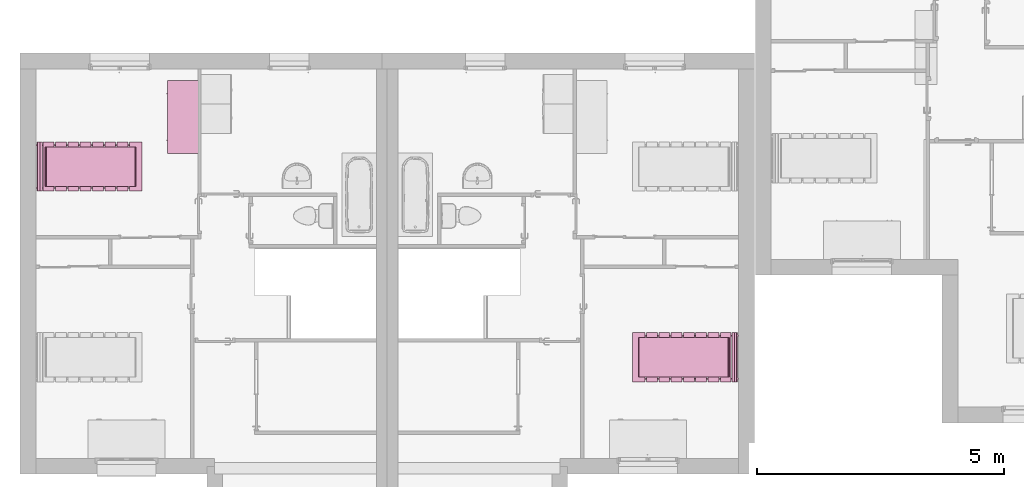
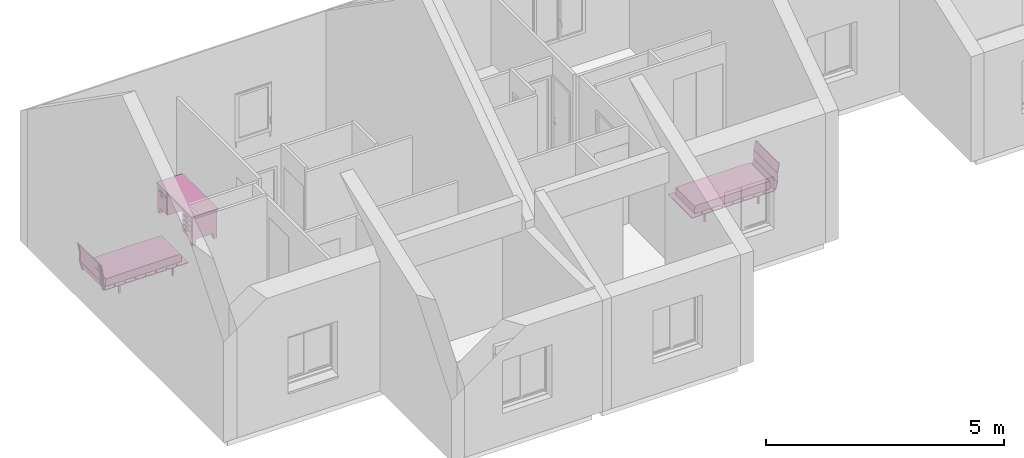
# One storey, part 53 of 61: 3 furnishings.
"""IFC2X3 building model written with IfcOpenShell, lengths in metres."""

from ifc_helpers import new_model, entity, si_unit, converted_unit, derived_unit, direction, frame, frame_2d, origin, origin_2d_with_axis, place, context, subcontext, project, spatial, polyline, circle_curve, parameter, trimmed, segment, composite_curve, rectangle, outline, extrude, faceted_brep, source, transform, mapped, material, material_list, type_object, type_shapes, element, save


model = new_model("IFC2X3")

# Units and contexts
model_context = context("Model", 3, precision=1e-05, world=origin(), true_north=direction((6.12303176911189e-17, 1.0)))
body_context = subcontext(model_context, "Body", "Model", "MODEL_VIEW")
ifc_project = project(units=[si_unit("LENGTHUNIT", "METRE"), si_unit("AREAUNIT", "SQUARE_METRE"), si_unit("VOLUMEUNIT", "CUBIC_METRE"), converted_unit("PLANEANGLEUNIT", "DEGREE", entity("IfcRatioMeasure", 0.0174532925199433), si_unit("PLANEANGLEUNIT", "RADIAN"), dimensions=[0, 0, 0, 0, 0, 0, 0]), si_unit("MASSUNIT", "GRAM", prefix="KILO"), derived_unit("MASSDENSITYUNIT", [(si_unit("MASSUNIT", "GRAM", prefix="KILO"), 1), (si_unit("LENGTHUNIT", "METRE"), -3)]), si_unit("TIMEUNIT", "SECOND"), si_unit("FREQUENCYUNIT", "HERTZ"), si_unit("THERMODYNAMICTEMPERATUREUNIT", "DEGREE_CELSIUS"), derived_unit("THERMALTRANSMITTANCEUNIT", [(si_unit("MASSUNIT", "GRAM", prefix="KILO"), 1), (si_unit("THERMODYNAMICTEMPERATUREUNIT", "KELVIN"), -1), (si_unit("TIMEUNIT", "SECOND"), -3)]), derived_unit("VOLUMETRICFLOWRATEUNIT", [(si_unit("LENGTHUNIT", "METRE"), 3), (si_unit("TIMEUNIT", "SECOND"), -1)]), si_unit("ELECTRICCURRENTUNIT", "AMPERE"), si_unit("ELECTRICVOLTAGEUNIT", "VOLT"), si_unit("POWERUNIT", "WATT"), si_unit("FORCEUNIT", "NEWTON", prefix="KILO"), si_unit("ILLUMINANCEUNIT", "LUX"), si_unit("LUMINOUSFLUXUNIT", "LUMEN"), si_unit("LUMINOUSINTENSITYUNIT", "CANDELA"), derived_unit("USERDEFINED", [(si_unit("MASSUNIT", "GRAM", prefix="KILO"), -1), (si_unit("LENGTHUNIT", "METRE"), -2), (si_unit("TIMEUNIT", "SECOND"), 3), (si_unit("LUMINOUSFLUXUNIT", "LUMEN"), 1)]), derived_unit("LINEARVELOCITYUNIT", [(si_unit("LENGTHUNIT", "METRE"), 1), (si_unit("TIMEUNIT", "SECOND"), -1)]), si_unit("PRESSUREUNIT", "PASCAL"), derived_unit("USERDEFINED", [(si_unit("LENGTHUNIT", "METRE"), -2), (si_unit("MASSUNIT", "GRAM", prefix="KILO"), 1), (si_unit("TIMEUNIT", "SECOND"), -2)])], contexts=[model_context])

# Site, building, storey
site_placement = place(None, origin())
site = spatial("IfcSite", under=ifc_project, at=site_placement, Name="Surface", CompositionType="ELEMENT")
building_placement = place(site_placement, origin())
building = spatial("IfcBuilding", under=site, at=building_placement, CompositionType="ELEMENT")
storey_placement = place(building_placement, frame((0.0, 0.0, 2.82)))
storey = spatial("IfcBuildingStorey", under=building, at=storey_placement, Name="ETAGE", CompositionType="ELEMENT", Elevation=2.82)

# Furnishings
ifc_material_1 = material(Name="Bois - Mélaminé ivoire")
ifc_material_2 = material(Name="Métal - Chrome")
ifc_material_3 = material(Name="Bois - Cerisier")
ifc_material_list_1 = material_list([ifc_material_1, ifc_material_2, ifc_material_3])
ifc_material_list_2 = material_list([ifc_material_1, ifc_material_2, ifc_material_3])
furniture_type_1 = type_object("IfcFurnitureType", Name="1525 mm x 600 mm", material=ifc_material_list_2)
shared_shape_1 = source(origin(), body_context, "Body", "Brep", [
    faceted_brep([(1.06265, 0.599999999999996, 0.704850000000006), (1.06265, 0.599999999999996, 0.603250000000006), (1.43095, 0.599999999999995, 0.603250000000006), (1.43095, 0.599999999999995, 0.704850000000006), (1.06265, 0.612699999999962, 0.704850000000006), (1.06265, 0.612699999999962, 0.603250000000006), (1.43095, 0.612699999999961, 0.603250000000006), (1.43095, 0.612699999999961, 0.704850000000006)], [[[0, 1, 2, 3]], [[1, 0, 4, 5]], [[2, 1, 5, 6]], [[3, 2, 6, 7]], [[0, 3, 7, 4]], [[4, 7, 6, 5]]]),
    faceted_brep([(1.43095, 0.612699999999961, 0.584200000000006), (1.43095, 0.612699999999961, 0.17105), (1.06265, 0.612699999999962, 0.17105), (1.06265, 0.612699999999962, 0.584200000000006), (1.06265, 0.599999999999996, 0.584200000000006), (1.43095, 0.599999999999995, 0.584200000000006), (1.06265, 0.599999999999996, 0.17105), (1.43095, 0.599999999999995, 0.17105)], [[[0, 1, 2, 3]], [[4, 5, 0, 3]], [[6, 4, 3, 2]], [[7, 6, 2, 1]], [[5, 7, 1, 0]], [[5, 4, 6, 7]]]),
    faceted_brep([(0.38735, 0.6, 0.70485), (0.01905, 0.6, 0.70485), (0.01905, 0.6, 0.60285), (0.38735, 0.6, 0.60285), (0.38735, 0.612700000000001, 0.70485), (0.01905, 0.612700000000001, 0.70485), (0.01905, 0.612700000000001, 0.60285), (0.38735, 0.612700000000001, 0.60285)], [[[0, 1, 2, 3]], [[1, 0, 4, 5]], [[2, 1, 5, 6]], [[3, 2, 6, 7]], [[0, 3, 7, 4]], [[4, 7, 6, 5]]]),
    faceted_brep([(0.01905, 0.612700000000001, 0.5838), (0.38735, 0.612700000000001, 0.5838), (0.38735, 0.612700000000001, 0.4822), (0.01905, 0.612700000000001, 0.4822), (0.01905, 0.6, 0.4822), (0.01905, 0.6, 0.5838), (0.38735, 0.6, 0.4822), (0.38735, 0.6, 0.5838)], [[[0, 1, 2, 3]], [[4, 5, 0, 3]], [[6, 4, 3, 2]], [[7, 6, 2, 1]], [[5, 7, 1, 0]], [[5, 4, 6, 7]]]),
    faceted_brep([(0.01905, 0.6, 0.17105), (0.01905, 0.6, 0.3425), (0.01905, 0.612700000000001, 0.3425), (0.01905, 0.612700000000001, 0.17105), (0.38735, 0.6, 0.17105), (0.38735, 0.612700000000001, 0.17105), (0.38735, 0.6, 0.3425), (0.38735, 0.612700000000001, 0.3425)], [[[0, 1, 2, 3]], [[4, 0, 3, 5]], [[6, 4, 5, 7]], [[1, 6, 7, 2]], [[2, 7, 5, 3]], [[1, 0, 4, 6]]]),
    faceted_brep([(0.01905, 0.6, 0.36155), (0.01905, 0.6, 0.46315), (0.01905, 0.612700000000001, 0.46315), (0.01905, 0.612700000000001, 0.36155), (0.38735, 0.6, 0.36155), (0.38735, 0.612700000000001, 0.36155), (0.38735, 0.6, 0.46315), (0.38735, 0.612700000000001, 0.46315)], [[[0, 1, 2, 3]], [[4, 0, 3, 5]], [[6, 4, 5, 7]], [[1, 6, 7, 2]], [[2, 7, 5, 3]], [[1, 0, 4, 6]]]),
    faceted_brep([(1.34839999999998, 0.6, 0.152), (1.34839999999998, 0.498399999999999, 0.152), (1.44999999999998, 0.498399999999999, 0.152), (1.44999999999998, 0.6, 0.152), (1.37379999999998, 0.6, 0.0), (1.44999999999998, 0.6, 0.0), (1.44999999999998, 0.5238, 0.0), (1.37379999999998, 0.5238, 0.0)], [[[0, 1, 2, 3]], [[4, 5, 6, 7]], [[4, 7, 1, 0]], [[7, 6, 2, 1]], [[6, 5, 3, 2]], [[5, 4, 0, 3]]]),
    faceted_brep([(1.3484, 0.0, 0.152), (1.45, 0.0, 0.152), (1.45, 0.1016, 0.152), (1.3484, 0.1016, 0.152), (1.3738, 0.0, 0.0), (1.3738, 0.0761999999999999, 0.0), (1.45, 0.0761999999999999, 0.0), (1.45, 0.0, 0.0)], [[[0, 1, 2, 3]], [[4, 5, 6, 7]], [[4, 7, 1, 0]], [[7, 6, 2, 1]], [[6, 5, 3, 2]], [[5, 4, 0, 3]]]),
    faceted_brep([(0.1016, 0.0, 0.152), (0.1016, 0.1016, 0.152), (0.0, 0.1016, 0.152), (0.0, 0.0, 0.152), (0.0762, 0.0, 0.0), (0.0, 0.0, 0.0), (0.0, 0.0761999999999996, 0.0), (0.0762, 0.0761999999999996, 0.0)], [[[0, 1, 2, 3]], [[4, 5, 6, 7]], [[4, 7, 1, 0]], [[7, 6, 2, 1]], [[6, 5, 3, 2]], [[5, 4, 0, 3]]]),
    faceted_brep([(0.1016, 0.600000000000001, 0.152), (0.0, 0.600000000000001, 0.152), (0.0, 0.498400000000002, 0.152), (0.1016, 0.498400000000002, 0.152), (0.0761999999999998, 0.600000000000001, 0.0), (0.0761999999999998, 0.523800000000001, 0.0), (0.0, 0.523800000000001, 0.0), (0.0, 0.600000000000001, 0.0)], [[[0, 1, 2, 3]], [[4, 5, 6, 7]], [[4, 7, 1, 0]], [[7, 6, 2, 1]], [[6, 5, 3, 2]], [[5, 4, 0, 3]]]),
    faceted_brep([(0.4064, 0.6, 0.723900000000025), (0.0, 0.6, 0.723900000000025), (0.0, 0.0, 0.723900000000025), (1.45, 0.0, 0.723900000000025), (1.45, 0.6, 0.723900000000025), (1.04360000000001, 0.6, 0.723900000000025), (1.04360000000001, 0.0508000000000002, 0.723900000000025), (0.4064, 0.0508000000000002, 0.723900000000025), (0.4064, 0.6, 0.152), (0.4064, 0.0508000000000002, 0.152), (1.04360000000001, 0.0508000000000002, 0.152), (1.04360000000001, 0.6, 0.152), (1.45, 0.6, 0.152), (1.45, 0.0, 0.152), (0.0, 0.0, 0.152), (0.0, 0.6, 0.152)], [[[0, 1, 2, 3, 4, 5, 6, 7]], [[8, 9, 10, 11, 12, 13, 14, 15]], [[1, 0, 8, 15]], [[2, 1, 15, 14]], [[3, 2, 14, 13]], [[4, 3, 13, 12]], [[5, 4, 12, 11]], [[6, 5, 11, 10]], [[7, 6, 10, 9]], [[0, 7, 9, 8]]]),
    faceted_brep([(1.46905000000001, 0.619049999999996, 0.761999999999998), (-0.0190499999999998, 0.619049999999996, 0.761999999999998), (-0.0190499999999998, -0.0190500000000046, 0.761999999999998), (1.46905000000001, -0.0190500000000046, 0.761999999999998), (1.46905000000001, 0.619049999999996, 0.723900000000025), (1.46905000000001, -0.0190500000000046, 0.723900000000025), (-0.0190499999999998, -0.0190500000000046, 0.723900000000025), (-0.0190499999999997, 0.619049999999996, 0.723900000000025)], [[[0, 1, 2, 3]], [[4, 5, 6, 7]], [[1, 0, 4, 7]], [[2, 1, 7, 6]], [[3, 2, 6, 5]], [[0, 3, 5, 4]]]),
    faceted_brep([(1.29124999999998, 0.612699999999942, 0.546100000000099), (1.29124999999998, 0.612699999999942, 0.533400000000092), (1.29759999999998, 0.612699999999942, 0.533400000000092), (1.29759999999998, 0.612699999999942, 0.546100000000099), (1.29124999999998, 0.631749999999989, 0.546100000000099), (1.29124999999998, 0.631749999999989, 0.533400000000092), (1.29759999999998, 0.638099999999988, 0.533400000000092), (1.29759999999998, 0.638099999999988, 0.546100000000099), (1.20234999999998, 0.631749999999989, 0.546100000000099), (1.20234999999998, 0.631749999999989, 0.533400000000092), (1.19599999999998, 0.638099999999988, 0.533400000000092), (1.19599999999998, 0.638099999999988, 0.546100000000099), (1.20234999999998, 0.612699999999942, 0.546100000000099), (1.20234999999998, 0.612699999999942, 0.533400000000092), (1.19599999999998, 0.612699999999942, 0.533400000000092), (1.19599999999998, 0.612699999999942, 0.546100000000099)], [[[0, 1, 2, 3]], [[1, 0, 4, 5]], [[2, 1, 5, 6]], [[3, 2, 6, 7]], [[0, 3, 7, 4]], [[5, 4, 8, 9]], [[6, 5, 9, 10]], [[7, 6, 10, 11]], [[4, 7, 11, 8]], [[9, 8, 12, 13]], [[10, 9, 13, 14]], [[11, 10, 14, 15]], [[8, 11, 15, 12]], [[12, 15, 14, 13]]]),
    faceted_brep([(1.29124999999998, 0.612699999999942, 0.654050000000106), (1.29124999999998, 0.612699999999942, 0.666750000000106), (1.29124999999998, 0.631749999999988, 0.666750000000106), (1.29124999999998, 0.631749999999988, 0.654050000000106), (1.29759999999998, 0.612699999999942, 0.654050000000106), (1.29759999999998, 0.638099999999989, 0.654050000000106), (1.29759999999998, 0.612699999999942, 0.666750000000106), (1.29759999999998, 0.638099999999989, 0.666750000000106), (1.20234999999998, 0.631749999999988, 0.666750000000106), (1.20234999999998, 0.631749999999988, 0.654050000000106), (1.19599999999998, 0.638099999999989, 0.654050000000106), (1.19599999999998, 0.638099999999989, 0.666750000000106), (1.20234999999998, 0.612699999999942, 0.666750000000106), (1.19599999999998, 0.612699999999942, 0.666750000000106), (1.19599999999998, 0.612699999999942, 0.654050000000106), (1.20234999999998, 0.612699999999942, 0.654050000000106)], [[[0, 1, 2, 3]], [[4, 0, 3, 5]], [[6, 4, 5, 7]], [[1, 6, 7, 2]], [[3, 2, 8, 9]], [[5, 3, 9, 10]], [[7, 5, 10, 11]], [[2, 7, 11, 8]], [[12, 13, 14, 15]], [[9, 8, 12, 15]], [[10, 9, 15, 14]], [[11, 10, 14, 13]], [[8, 11, 13, 12]], [[1, 0, 4, 6]]]),
    faceted_brep([(0.15875, 0.612699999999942, 0.3048), (0.1524, 0.612699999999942, 0.3048), (0.1524, 0.612699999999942, 0.2921), (0.15875, 0.612699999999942, 0.2921), (0.15875, 0.631749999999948, 0.3048), (0.1524, 0.638099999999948, 0.3048), (0.1524, 0.638099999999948, 0.2921), (0.15875, 0.631749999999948, 0.2921), (0.24765, 0.631749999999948, 0.3048), (0.254, 0.638099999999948, 0.3048), (0.254, 0.638099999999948, 0.2921), (0.24765, 0.631749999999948, 0.2921), (0.24765, 0.612699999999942, 0.3048), (0.254, 0.612699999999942, 0.3048), (0.254, 0.612699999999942, 0.2921), (0.24765, 0.612699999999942, 0.2921)], [[[0, 1, 2, 3]], [[1, 0, 4, 5]], [[2, 1, 5, 6]], [[3, 2, 6, 7]], [[0, 3, 7, 4]], [[5, 4, 8, 9]], [[6, 5, 9, 10]], [[7, 6, 10, 11]], [[4, 7, 11, 8]], [[9, 8, 12, 13]], [[10, 9, 13, 14]], [[11, 10, 14, 15]], [[8, 11, 15, 12]], [[12, 15, 14, 13]]]),
    faceted_brep([(0.1524, 0.612699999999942, 0.425450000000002), (0.15875, 0.612699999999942, 0.425450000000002), (0.15875, 0.631749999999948, 0.425450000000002), (0.1524, 0.638099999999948, 0.425450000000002), (0.1524, 0.612699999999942, 0.412750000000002), (0.1524, 0.638099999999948, 0.412750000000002), (0.15875, 0.612699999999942, 0.412750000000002), (0.15875, 0.631749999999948, 0.412750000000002), (0.24765, 0.631749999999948, 0.425450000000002), (0.254, 0.638099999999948, 0.425450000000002), (0.254, 0.638099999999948, 0.412750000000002), (0.24765, 0.631749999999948, 0.412750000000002), (0.24765, 0.612699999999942, 0.425450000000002), (0.254, 0.612699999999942, 0.425450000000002), (0.254, 0.612699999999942, 0.412750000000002), (0.24765, 0.612699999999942, 0.412750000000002)], [[[0, 1, 2, 3]], [[4, 0, 3, 5]], [[6, 4, 5, 7]], [[1, 6, 7, 2]], [[3, 2, 8, 9]], [[5, 3, 9, 10]], [[7, 5, 10, 11]], [[2, 7, 11, 8]], [[9, 8, 12, 13]], [[10, 9, 13, 14]], [[11, 10, 14, 15]], [[8, 11, 15, 12]], [[12, 15, 14, 13]], [[1, 0, 4, 6]]]),
    faceted_brep([(0.1524, 0.612699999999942, 0.5461), (0.15875, 0.612699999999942, 0.5461), (0.15875, 0.631749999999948, 0.5461), (0.1524, 0.638099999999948, 0.5461), (0.1524, 0.612699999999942, 0.5334), (0.1524, 0.638099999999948, 0.5334), (0.15875, 0.612699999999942, 0.5334), (0.15875, 0.631749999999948, 0.5334), (0.24765, 0.631749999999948, 0.5461), (0.254, 0.638099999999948, 0.5461), (0.254, 0.638099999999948, 0.5334), (0.24765, 0.631749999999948, 0.5334), (0.24765, 0.612699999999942, 0.5461), (0.254, 0.612699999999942, 0.5461), (0.254, 0.612699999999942, 0.5334), (0.24765, 0.612699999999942, 0.5334)], [[[0, 1, 2, 3]], [[4, 0, 3, 5]], [[6, 4, 5, 7]], [[1, 6, 7, 2]], [[3, 2, 8, 9]], [[5, 3, 9, 10]], [[7, 5, 10, 11]], [[2, 7, 11, 8]], [[9, 8, 12, 13]], [[10, 9, 13, 14]], [[11, 10, 14, 15]], [[8, 11, 15, 12]], [[12, 15, 14, 13]], [[1, 0, 4, 6]]]),
    faceted_brep([(0.1524, 0.612699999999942, 0.666750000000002), (0.15875, 0.612699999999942, 0.666750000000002), (0.15875, 0.631749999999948, 0.666750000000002), (0.1524, 0.638099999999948, 0.666750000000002), (0.1524, 0.612699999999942, 0.654050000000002), (0.1524, 0.638099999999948, 0.654050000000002), (0.15875, 0.612699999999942, 0.654050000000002), (0.15875, 0.631749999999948, 0.654050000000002), (0.24765, 0.631749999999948, 0.666750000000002), (0.254, 0.638099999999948, 0.666750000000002), (0.254, 0.638099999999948, 0.654050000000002), (0.24765, 0.631749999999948, 0.654050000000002), (0.24765, 0.612699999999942, 0.666750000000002), (0.24765, 0.612699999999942, 0.654050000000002), (0.254, 0.612699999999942, 0.654050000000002), (0.254, 0.612699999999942, 0.666750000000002)], [[[0, 1, 2, 3]], [[4, 0, 3, 5]], [[6, 4, 5, 7]], [[1, 6, 7, 2]], [[3, 2, 8, 9]], [[5, 3, 9, 10]], [[7, 5, 10, 11]], [[2, 7, 11, 8]], [[12, 13, 14, 15]], [[9, 8, 12, 15]], [[10, 9, 15, 14]], [[11, 10, 14, 13]], [[8, 11, 13, 12]], [[1, 0, 4, 6]]]),
])
type_shapes(furniture_type_1, [shared_shape_1])
furnishing_1_placement = place(storey_placement, frame((64.9925097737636, 86.4077566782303, 0.0199999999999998), z_axis=(0.0, 0.0, 1.0), x_axis=(0.0, 1.0, 0.0)))
element("IfcFurnishingElement", 1, at=furnishing_1_placement, inside=storey, type_object=furniture_type_1, material=ifc_material_list_1, Name="Bureau commun:1525 mm x 600 mm", ObjectType="Bureau commun:1525 mm x 600 mm", context=body_context, shape_type="MappedRepresentation", body=[
    mapped(shared_shape_1, transform((0.0, 0.0, 0.0), scale=1.0)),
])
ifc_material_4 = material(Name="Textile - Bleu pâle")
ifc_material_5 = material(Name="Bois - Teck")
ifc_material_6 = material(Name="Plastique - Noir")
ifc_material_list_3 = material_list([ifc_material_4, ifc_material_5, ifc_material_6])
ifc_material_list_4 = material_list([ifc_material_4, ifc_material_5, ifc_material_6])
furniture_type_2 = type_object("IfcFurnitureType", Name="1000 mm x 2000 mm 3", material=ifc_material_list_4)
shared_shape_2 = source(origin(), body_context, "Body", "SweptSolid", [
    extrude(outline(composite_curve([segment(polyline([(-0.755361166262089, -0.0846796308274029), (0.695178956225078, -0.0846796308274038)]), True, "CONTINUOUS"), segment(polyline([(0.695178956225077, -0.0846796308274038), (0.816394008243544, -0.078623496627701)]), True, "CONTINUOUS"), segment(polyline([(0.816394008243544, -0.078623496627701), (0.842657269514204, -0.0725673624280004)]), True, "CONTINUOUS"), segment(polyline([(0.842657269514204, -0.0725673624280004), (0.856799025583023, -0.0624738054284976)]), True, "CONTINUOUS"), segment(polyline([(0.856799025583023, -0.0624738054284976), (0.862859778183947, -0.0443054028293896)]), True, "CONTINUOUS"), segment(polyline([(0.862859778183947, -0.0443054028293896), (0.866900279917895, -0.0120060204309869)]), True, "CONTINUOUS"), segment(polyline([(0.866900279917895, -0.0120060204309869), (0.866900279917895, 0.0747985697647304)]), True, "CONTINUOUS"), segment(polyline([(0.866900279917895, 0.0747985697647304), (0.862859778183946, 0.105079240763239)]), True, "CONTINUOUS"), segment(polyline([(0.862859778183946, 0.105079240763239), (0.856799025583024, 0.113154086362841)]), True, "CONTINUOUS"), segment(polyline([(0.856799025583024, 0.113154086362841), (0.836596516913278, 0.117191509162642)]), True, "CONTINUOUS"), segment(polyline([(0.836596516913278, 0.117191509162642), (-0.953345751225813, 0.117191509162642)]), True, "CONTINUOUS"), segment(polyline([(-0.953345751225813, 0.117191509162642), (-0.969507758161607, 0.115172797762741)]), True, "CONTINUOUS"), segment(polyline([(-0.969507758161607, 0.115172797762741), (-0.971528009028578, 0.103060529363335)]), True, "CONTINUOUS"), segment(polyline([(-0.971528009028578, 0.103060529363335), (-0.971528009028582, -0.0160434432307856)]), True, "CONTINUOUS"), segment(trimmed(circle_curve(frame_2d((-0.76779044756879, -0.0160434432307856), x_axis=(-1.0, 0.0)), 0.203737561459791), [parameter(360.0)], [parameter(11.4298384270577)], True, "PARAMETER"), True, "CONTINUOUS"), segment(trimmed(circle_curve(frame_2d((-0.944467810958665, -0.0517636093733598), x_axis=(-1.0, 0.0)), 0.0234854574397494), [parameter(11.4298384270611)], [parameter(62.3518913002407)], True, "PARAMETER"), True, "CONTINUOUS"), segment(trimmed(circle_curve(frame_2d((-0.929629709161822, -0.0234388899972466), x_axis=(-1.0, 0.0)), 0.0554613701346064), [parameter(62.35189130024)], [parameter(84.2736549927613)], True, "PARAMETER"), True, "CONTINUOUS"), segment(trimmed(circle_curve(frame_2d((-0.809859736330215, 1.1709442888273), x_axis=(-1.0, 0.0)), 1.25583465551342), [parameter(84.2736549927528)], [parameter(86.5854437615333)], True, "PARAMETER"), True, "CONTINUOUS"), segment(polyline([(-0.884657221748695, -0.0826609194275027), (-0.755361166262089, -0.0846796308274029)]), True, "CONTINUOUS")], self_intersect=False)), frame((-0.4, 1.05656455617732, 0.367191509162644), z_axis=(1.0, 0.0, 0.0), x_axis=(0.0, -1.0, 0.0)), (0.0, 0.0, 1.0), 0.799999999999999),
    extrude(rectangle(XDim=1.0, YDim=0.249999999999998, at=origin_2d_with_axis()), frame((0.0, 2.02499620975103, 0.232311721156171), z_axis=(0.0, 0.0, 1.0), x_axis=(-1.0, 0.0, 0.0)), (0.0, 0.0, 1.0), 0.0176882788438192),
    extrude(outline(polyline([(-0.114793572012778, -0.00886960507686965), (0.115119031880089, -0.00886960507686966), (0.115119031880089, 0.00896042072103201), (-0.115444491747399, 0.00877878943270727), (-0.114793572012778, -0.00886960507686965)])), frame((-0.5, 0.051324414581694, 0.783374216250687), z_axis=(1.0, 0.0, 0.0), x_axis=(0.0, -0.182165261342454, 0.983267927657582)), (0.0, 0.0, 1.0), 0.999999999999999),
    extrude(rectangle(XDim=1.0, YDim=0.219999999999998, at=frame_2d((0.0, 1.38777878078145e-16), x_axis=(1.0, 0.0))), frame((0.0, 1.75999620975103, 0.232311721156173), z_axis=(0.0, 0.0, 1.0), x_axis=(-1.0, 0.0, 0.0)), (0.0, 0.0, 1.0), 0.0176882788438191),
    extrude(rectangle(XDim=1.0, YDim=0.219999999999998, at=frame_2d((0.0, -1.31838984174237e-16), x_axis=(1.0, 0.0))), frame((0.0, 1.50999620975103, 0.232311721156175), z_axis=(0.0, 0.0, 1.0), x_axis=(-1.0, 0.0, 0.0)), (0.0, 0.0, 1.0), 0.017688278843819),
    extrude(rectangle(XDim=1.0, YDim=0.219999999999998, at=frame_2d((0.0, -1.38777878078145e-16), x_axis=(1.0, 0.0))), frame((0.0, 1.25999620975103, 0.232311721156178), z_axis=(0.0, 0.0, 1.0), x_axis=(-1.0, 0.0, 0.0)), (0.0, 0.0, 1.0), 0.0176882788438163),
    extrude(rectangle(XDim=1.0, YDim=0.219999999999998, at=frame_2d((0.0, 6.93889390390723e-17), x_axis=(1.0, 0.0))), frame((0.0, 1.00999620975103, 0.232311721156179), z_axis=(0.0, 0.0, 1.0), x_axis=(-1.0, 0.0, 0.0)), (0.0, 0.0, 1.0), 0.0176882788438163),
    extrude(rectangle(XDim=1.0, YDim=0.22, at=origin_2d_with_axis()), frame((0.0, 0.759996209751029, 0.232311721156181), z_axis=(0.0, 0.0, 1.0), x_axis=(-1.0, 0.0, 0.0)), (0.0, 0.0, 1.0), 0.0176882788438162),
    extrude(rectangle(XDim=1.0, YDim=0.22, at=origin_2d_with_axis()), frame((0.0, 0.509996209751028, 0.232311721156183), z_axis=(0.0, 0.0, 1.0), x_axis=(-1.0, 0.0, 0.0)), (0.0, 0.0, 1.0), 0.0176882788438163),
    extrude(rectangle(XDim=1.0, YDim=0.22, at=origin_2d_with_axis()), frame((0.0, 0.259996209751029, 0.232311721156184), z_axis=(0.0, 0.0, 1.0), x_axis=(-1.0, 0.0, 0.0)), (0.0, 0.0, 1.0), 0.0176882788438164),
    extrude(rectangle(XDim=1.0, YDim=0.0183684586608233, at=origin_2d_with_axis()), frame((0.0, 0.0735868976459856, 0.443802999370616), z_axis=(0.0, 0.0, 1.0), x_axis=(-1.0, 0.0, 0.0)), (0.0, 0.0, 1.0), 0.214481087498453),
    extrude(outline(polyline([(-0.0941857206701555, -0.00889996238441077), (0.0936128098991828, -0.00889996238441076), (0.0943260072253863, 0.00869876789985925), (-0.0937530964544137, 0.00910115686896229), (-0.0941857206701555, -0.00889996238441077)])), frame((-0.5, 0.100341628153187, 0.340588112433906), z_axis=(1.0, 0.0, 0.0), x_axis=(0.0, -0.268983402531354, 0.96314481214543)), (0.0, 0.0, 1.0), 0.999999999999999),
    extrude(rectangle(XDim=0.03, YDim=0.0421792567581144, at=frame_2d((3.38271077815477e-17, -2.70616862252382e-16), x_axis=(1.0, 0.0))), frame((-0.434999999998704, 1.80439834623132, 0.0)), (0.0, 0.0, 1.0), 0.204645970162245),
    extrude(rectangle(XDim=0.03, YDim=0.0421792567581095, at=frame_2d((3.38271077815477e-17, -3.29597460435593e-17), x_axis=(1.0, 0.0))), frame((-0.434999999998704, 0.505017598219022, 0.0)), (0.0, 0.0, 1.0), 0.204645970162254),
    extrude(rectangle(XDim=0.03, YDim=0.0421792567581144, at=frame_2d((-3.38271077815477e-17, 0.0), x_axis=(1.0, 0.0))), frame((0.435000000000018, 1.80439834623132, 0.0), z_axis=(0.0, 0.0, 1.0), x_axis=(-1.0, 0.0, 0.0)), (0.0, 0.0, 1.0), 0.204645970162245),
    extrude(rectangle(XDim=0.03, YDim=0.0421792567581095, at=frame_2d((-3.38271077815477e-17, -3.29597460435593e-17), x_axis=(1.0, 0.0))), frame((0.435000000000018, 0.505017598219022, 0.0), z_axis=(0.0, 0.0, 1.0), x_axis=(-1.0, 0.0, 0.0)), (0.0, 0.0, 1.0), 0.204645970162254),
    extrude(outline(composite_curve([segment(polyline([(-0.499010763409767, 0.346366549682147), (-0.499569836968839, 0.324560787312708)]), True, "CONTINUOUS"), segment(polyline([(-0.499569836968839, 0.324560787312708), (-0.2642053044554, 0.324063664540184)]), True, "CONTINUOUS"), segment(polyline([(-0.2642053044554, 0.324063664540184), (-0.0414406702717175, 0.365029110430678)]), True, "CONTINUOUS"), segment(polyline([(-0.0414406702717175, 0.365029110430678), (0.170125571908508, 0.346291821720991)]), True, "CONTINUOUS"), segment(polyline([(0.170125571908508, 0.346291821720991), (0.528537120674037, -1.59768807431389)]), True, "CONTINUOUS"), segment(polyline([(0.528537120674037, -1.59768807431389), (0.549932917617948, -1.56608457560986)]), True, "CONTINUOUS"), segment(polyline([(0.549932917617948, -1.56608457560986), (0.19740578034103, 0.350911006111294)]), True, "CONTINUOUS"), segment(trimmed(circle_curve(frame_2d((0.17103903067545, 0.346062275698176), x_axis=(0.180862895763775, -0.983508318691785)), 0.0268088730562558), [parameter(90.0)], [parameter(167.367566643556)], True, "PARAMETER"), True, "CONTINUOUS"), segment(polyline([(0.172073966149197, 0.372851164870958), (-0.0455420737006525, 0.387331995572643)]), True, "CONTINUOUS"), segment(polyline([(-0.0455420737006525, 0.387331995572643), (-0.268306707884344, 0.346366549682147)]), True, "CONTINUOUS"), segment(polyline([(-0.268306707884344, 0.346366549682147), (-0.499010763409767, 0.346366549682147)]), True, "CONTINUOUS")], self_intersect=False)), frame((-0.449999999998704, 0.430906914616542, 0.462262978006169), z_axis=(-1.0, 0.0, 0.0), x_axis=(0.0, 0.180862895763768, -0.983508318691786)), (0.0, 0.0, -1.0), 0.0299999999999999),
    extrude(outline(composite_curve([segment(polyline([(-0.499010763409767, 0.346366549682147), (-0.49956983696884, 0.324560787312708)]), True, "CONTINUOUS"), segment(polyline([(-0.49956983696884, 0.324560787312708), (-0.2642053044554, 0.324063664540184)]), True, "CONTINUOUS"), segment(polyline([(-0.2642053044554, 0.324063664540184), (-0.0414406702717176, 0.365029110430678)]), True, "CONTINUOUS"), segment(polyline([(-0.0414406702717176, 0.365029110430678), (0.170125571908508, 0.346291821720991)]), True, "CONTINUOUS"), segment(polyline([(0.170125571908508, 0.346291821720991), (0.528537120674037, -1.59768807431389)]), True, "CONTINUOUS"), segment(polyline([(0.528537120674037, -1.59768807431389), (0.549932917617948, -1.56608457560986)]), True, "CONTINUOUS"), segment(polyline([(0.549932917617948, -1.56608457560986), (0.19740578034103, 0.350911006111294)]), True, "CONTINUOUS"), segment(trimmed(circle_curve(frame_2d((0.17103903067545, 0.346062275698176), x_axis=(0.180862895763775, -0.983508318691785)), 0.0268088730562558), [parameter(90.0)], [parameter(167.367566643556)], True, "PARAMETER"), True, "CONTINUOUS"), segment(polyline([(0.172073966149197, 0.372851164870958), (-0.0455420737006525, 0.387331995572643)]), True, "CONTINUOUS"), segment(polyline([(-0.0455420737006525, 0.387331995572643), (-0.268306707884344, 0.346366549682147)]), True, "CONTINUOUS"), segment(polyline([(-0.268306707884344, 0.346366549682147), (-0.499010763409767, 0.346366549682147)]), True, "CONTINUOUS")], self_intersect=False)), frame((0.420000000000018, 0.430906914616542, 0.462262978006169), z_axis=(-1.0, 0.0, 0.0), x_axis=(0.0, 0.180862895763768, -0.983508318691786)), (0.0, 0.0, -1.0), 0.0299999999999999),
])
type_shapes(furniture_type_2, [shared_shape_2])
furnishing_2_placement = place(storey_placement, frame((61.7063634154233, 86.1277566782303, 0.0199999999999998), z_axis=(0.0, 0.0, 1.0), x_axis=(0.0, -1.0, 0.0)))
element("IfcFurnishingElement", 2, at=furnishing_2_placement, inside=storey, type_object=furniture_type_2, material=ifc_material_list_3, Name="Lit à lattes:1000 mm x 2000 mm 3", ObjectType="Lit à lattes:1000 mm x 2000 mm 3", context=body_context, shape_type="MappedRepresentation", body=[
    mapped(shared_shape_2, transform((0.0, 0.0, 0.0), scale=1.0)),
])
ifc_material_list_5 = material_list([ifc_material_4, ifc_material_5, ifc_material_6])
furnishing_3_placement = place(storey_placement, frame((75.962889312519, 82.2577566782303, 0.0199999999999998), z_axis=(0.0, 0.0, 1.0), x_axis=(0.0, 1.0, 0.0)))
element("IfcFurnishingElement", 3, at=furnishing_3_placement, inside=storey, type_object=furniture_type_2, material=ifc_material_list_5, Name="Lit à lattes:1000 mm x 2000 mm 3", ObjectType="Lit à lattes:1000 mm x 2000 mm 3", context=body_context, shape_type="MappedRepresentation", body=[
    mapped(shared_shape_2, transform((0.0, 0.0, 0.0), scale=1.0)),
])

save(model, "model.ifc")
